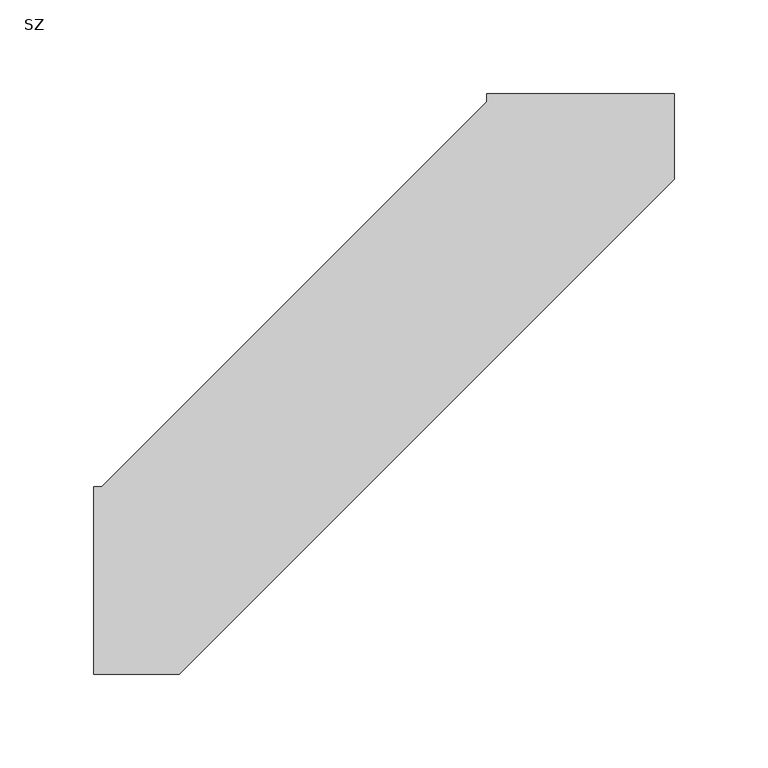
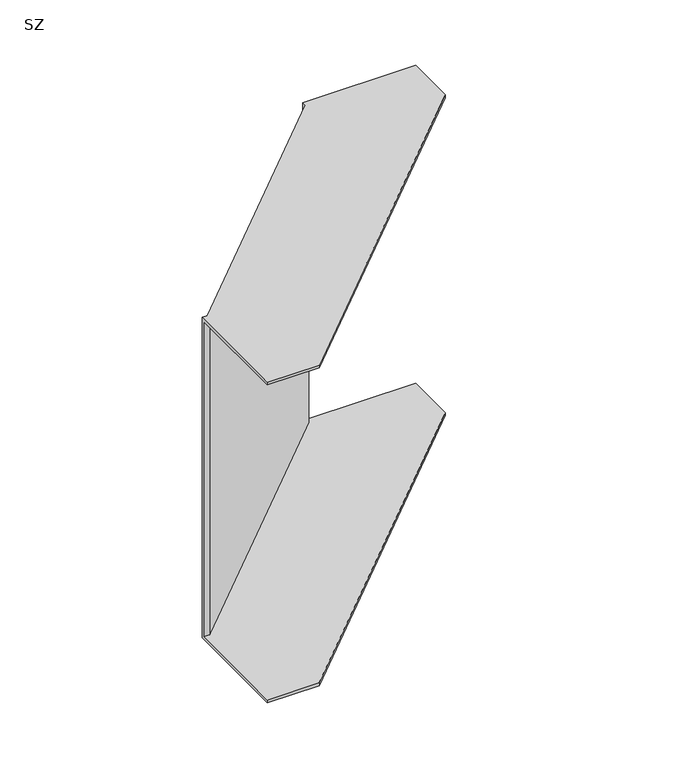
"""IFC4 building model written with IfcOpenShell, lengths in millimetres: cable carrier fitting geometry, IEK_Листовой_Поворот вертик наруж : SZ."""

from ifc_helpers import new_model, si_unit, origin, place, context, project, spatial, faceted_brep, source, transform, mapped, element, save


def sz_9244dd85(model_context):
    return source(origin(), model_context, "Body", "Brep", [
        faceted_brep([(-260.0, -50.0, 150.0), (-260.0, 50.0, 150.0), (-260.0, 50.0, -150.0), (-260.0, -50.0, -150.0), (-260.0, -50.0, -147.5), (-260.0, 47.5, -147.5), (-260.0, 47.5, 147.5), (-260.0, -50.0, 147.5), (50.0, 260.0, 150.0), (50.0, 260.0, 147.5), (-47.5, 260.0, 147.5), (-47.5, 260.0, -147.5), (50.0, 260.0, -147.5), (50.0, 260.0, -150.0), (-50.0, 260.0, -150.0), (-50.0, 260.0, 150.0), (-214.2893219, -50.0, 150.0), (50.0, 214.2893219, 150.0), (-50.0, 255.7106781, 150.0), (-255.7106781, 50.0, 150.0), (-255.7106781, 50.0, -150.0), (-50.0, 255.7106781, -150.0), (50.0, 214.2893219, -150.0), (-214.2893219, -50.0, -150.0), (-214.2893219, -50.0, -147.5), (50.0, 214.2893219, -147.5), (-47.5, 254.6751442, -147.5), (-254.6751442, 47.5, -147.5), (-254.6751442, 47.5, 147.5), (-47.5, 254.6751442, 147.5), (50.0, 214.2893219, 147.5), (-214.2893219, -50.0, 147.5)], [[[0, 1, 2, 3, 4, 5, 6, 7]], [[8, 9, 10, 11, 12, 13, 14, 15]], [[1, 0, 16, 17, 8, 15, 18, 19]], [[2, 1, 19, 20]], [[3, 2, 20, 21, 14, 13, 22, 23]], [[4, 3, 23, 24]], [[5, 4, 24, 25, 12, 11, 26, 27]], [[6, 5, 27, 28]], [[7, 6, 28, 29, 10, 9, 30, 31]], [[0, 7, 31, 16]], [[21, 18, 15, 14]], [[25, 22, 13, 12]], [[29, 26, 11, 10]], [[17, 30, 9, 8]], [[20, 19, 18, 21]], [[24, 23, 22, 25]], [[28, 27, 26, 29]], [[16, 31, 30, 17]]]),
    ])


if __name__ == "__main__":
    model = new_model("IFC4")
    model_context = context("Model", 3, world=origin())
    ifc_project = project(units=[si_unit("LENGTHUNIT", "METRE", prefix="MILLI")], contexts=[model_context])
    site = spatial("IfcSite", under=ifc_project)
    building = spatial("IfcBuilding", under=site)
    placement = place(None, origin())
    sz_shape = sz_9244dd85(model_context)
    element("IfcCableCarrierFitting", 1, ObjectType="IEK_Листовой_Поворот вертик наруж : SZ", at=placement, inside=building, context=model_context, shape_type="MappedRepresentation", body=[
        mapped(sz_shape, transform((0.0, 0.0, 0.0), x_axis=(1.0, 0.0, 0.0), y_axis=(0.0, 1.0, 0.0), z_axis=(0.0, 0.0, 1.0))),
    ])
    save(model, "model.ifc")
